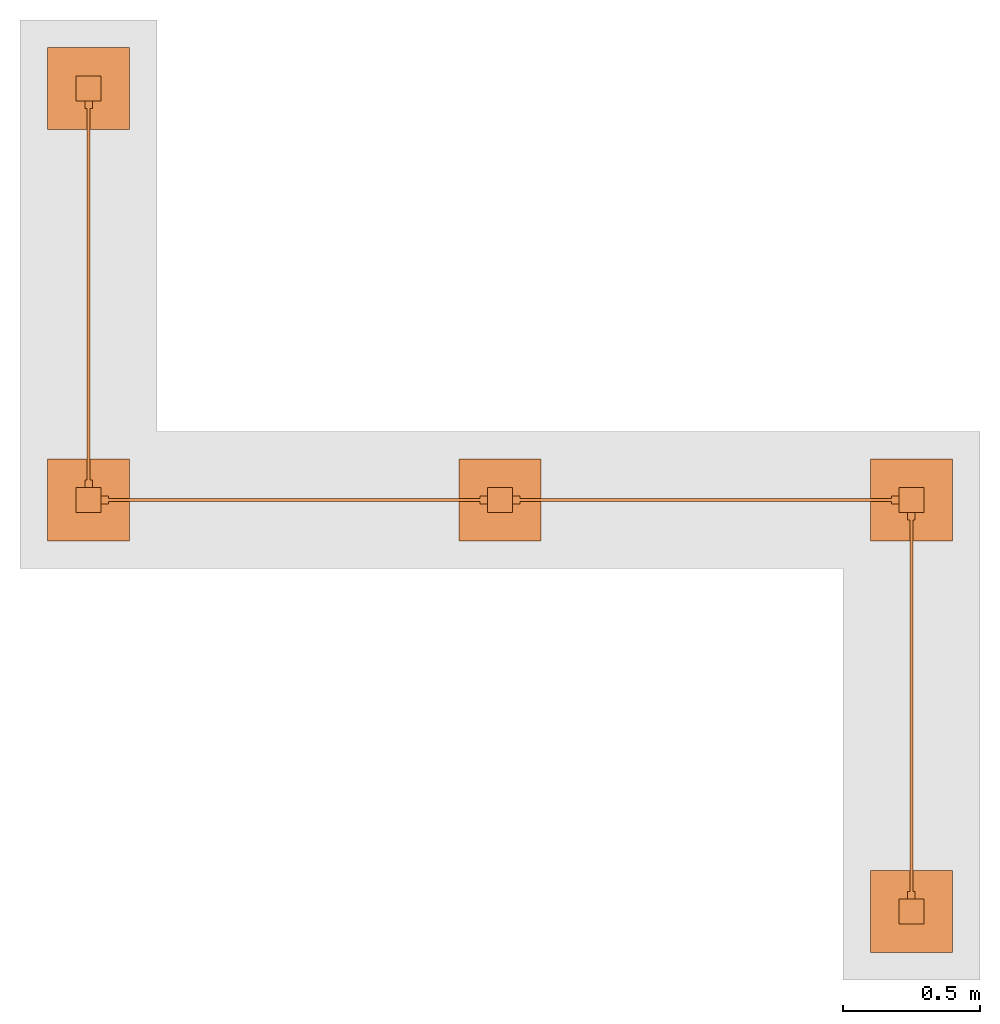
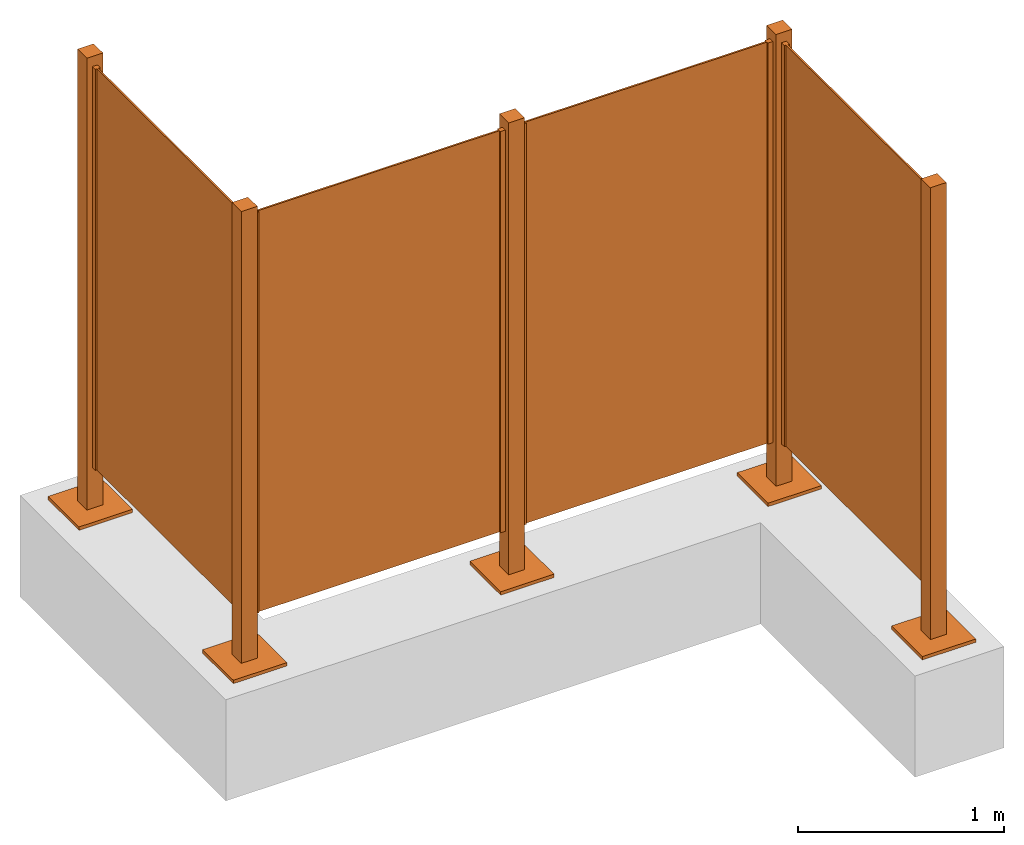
# One storey, part 2 of 2: 1 proxy.
"""IFC4 building model written with IfcOpenShell, lengths in metres."""

import ifcopenshell
import ifcopenshell.guid

model = None  # the IFC model being written
_history = None  # IfcOwnerHistory: only IFC2X3 demands one
_inside = {}  # id of a spatial element -> (the spatial element, [elements in it])
_under = {}  # id of a project, library or spatial element -> (it, [spatial elements below it])
_declared = {}  # id of a project -> (the project, [libraries it declares])
_typed = {}  # id of a type object -> (the type object, [elements of that type])
_made_of = {}  # id of a material, layer set ... -> (it, [elements and type objects made of it])


def new_model(schema):
    """Start an empty IFC model of exactly this schema.

    Asked for "IFC4X3", IfcOpenShell would pick the latest addendum, in which some entities
    have other attributes; the version numbers below select the first issue.
    IFC2X3 requires an IfcOwnerHistory on every rooted entity: one is made here for all.
    """
    global model, _history
    if schema == "IFC4X3":
        model = ifcopenshell.file(schema_version=(4, 3, 0, 0))
    else:
        model = ifcopenshell.file(schema=schema)
    _inside.clear()
    _under.clear()
    _declared.clear()
    _typed.clear()
    _made_of.clear()
    _history = None
    if model.schema == "IFC2X3":
        org = make("IfcOrganization", Name="unknown")
        user = make(
            "IfcPersonAndOrganization",
            ThePerson=make("IfcPerson", FamilyName="unknown"),
            TheOrganization=org,
        )
        app = make(
            "IfcApplication",
            ApplicationDeveloper=org,
            Version="unknown",
            ApplicationFullName="unknown",
            ApplicationIdentifier="unknown",
        )
        _history = make(
            "IfcOwnerHistory",
            OwningUser=user,
            OwningApplication=app,
            ChangeAction="ADDED",
            CreationDate=0,
        )
    return model


def make(cls, **values):
    """One entity of the class cls with the attributes given. An attribute that is None is left unset."""
    return model.create_entity(
        cls, **{name: value for name, value in values.items() if value is not None}
    )


def entity(cls, *values):
    """Any entity or typed value of the class cls, its attributes in the order of the schema. None: left unset."""
    e = model.create_entity(cls)
    for i, value in enumerate(values):
        if value is not None:
            e[i] = value
    return e


def rooted(cls, **values):
    """An entity with a GlobalId (a new one), such as an element, a storey or a relation."""
    return make(cls, GlobalId=ifcopenshell.guid.new(), OwnerHistory=_history, **values)


def si_unit(unit_type, name, prefix=None):
    """IfcSIUnit, for example si_unit("LENGTHUNIT", "METRE", prefix="MILLI")."""
    return make("IfcSIUnit", UnitType=unit_type, Prefix=prefix, Name=name)


def converted_unit(unit_type, name, factor, base, dimensions=None, offset=None):
    """IfcConversionBasedUnit, such as the inch: factor (a typed value) times the base unit."""
    return make(
        "IfcConversionBasedUnit"
        if offset is None
        else "IfcConversionBasedUnitWithOffset",
        ConversionOffset=offset,
        Dimensions=None
        if dimensions is None
        else entity("IfcDimensionalExponents", *dimensions),
        UnitType=unit_type,
        Name=name,
        ConversionFactor=make(
            "IfcMeasureWithUnit", ValueComponent=factor, UnitComponent=base
        ),
    )


def assignment(units):
    """IfcUnitAssignment: the units of a project."""
    return None if units is None else make("IfcUnitAssignment", Units=units)


def point(xyz):
    """IfcCartesianPoint."""
    return None if xyz is None else make("IfcCartesianPoint", Coordinates=xyz)


def direction(xyz):
    """IfcDirection."""
    return None if xyz is None else make("IfcDirection", DirectionRatios=xyz)


def frame(location, z_axis=None, x_axis=None):
    """IfcAxis2Placement3D, a coordinate frame: its origin and axes. An axis left out is left unset."""
    return make(
        "IfcAxis2Placement3D",
        Location=point(location),
        Axis=direction(z_axis),
        RefDirection=direction(x_axis),
    )


def frame_2d(location, x_axis=None):
    """IfcAxis2Placement2D, a coordinate frame in the plane: its origin and x axis."""
    return make(
        "IfcAxis2Placement2D", Location=point(location), RefDirection=direction(x_axis)
    )


def origin():
    """The frame at (0, 0, 0) with its axes left unset."""
    return frame((0.0, 0.0, 0.0))


def origin_2d_with_axis():
    """The frame at (0, 0) in the plane with the x axis (1, 0) written out."""
    return frame_2d((0.0, 0.0), x_axis=(1.0, 0.0))


def place(relative_to, where):
    """IfcLocalPlacement: puts the frame where relative to a parent placement (None: the world)."""
    return make(
        "IfcLocalPlacement", PlacementRelTo=relative_to, RelativePlacement=where
    )


def context(
    kind, dimensions, precision=None, world=None, true_north=None, identifier=None
):
    """IfcGeometricRepresentationContext, for example the 3D "Model" context."""
    return make(
        "IfcGeometricRepresentationContext",
        ContextIdentifier=identifier,
        ContextType=kind,
        CoordinateSpaceDimension=dimensions,
        Precision=precision,
        WorldCoordinateSystem=world,
        TrueNorth=true_north,
    )


def subcontext(parent, identifier, kind, view, scale=None):
    """IfcGeometricRepresentationSubContext, for example "Body" below "Model"."""
    return make(
        "IfcGeometricRepresentationSubContext",
        ContextIdentifier=identifier,
        ContextType=kind,
        ParentContext=parent,
        TargetScale=scale,
        TargetView=view,
    )


def project(units=None, contexts=None):
    """IfcProject with its units and contexts."""
    return rooted(
        "IfcProject",
        Name="project",
        RepresentationContexts=contexts,
        UnitsInContext=assignment(units),
    )


def spatial(cls, under=None, at=None, **own):
    """A site, building, storey or space (cls), placed at a placement, below another one or the project."""
    s = rooted(cls, ObjectPlacement=at, **own)
    if under is not None:
        _under.setdefault(under.id(), (under, []))[1].append(s)
    return s


def profile(cls, at=None, kind="AREA", **sizes):
    """A parametric profile (cls). Its sizes go by their IFC names, for example OverallWidth=200.0."""
    return make(cls, ProfileType=kind, Position=at, **sizes)


def rectangle(**sizes):
    """IfcRectangleProfileDef."""
    return profile("IfcRectangleProfileDef", **sizes)


def extrude(swept, where, along, depth):
    """IfcExtrudedAreaSolid: the profile swept, set in the frame where, extruded along a direction by depth."""
    return make(
        "IfcExtrudedAreaSolid",
        SweptArea=swept,
        Position=where,
        ExtrudedDirection=direction(along),
        Depth=depth,
    )


def shape(context_of_items, identifier, shape_type, items):
    """IfcShapeRepresentation: the items that make up one representation, for example the "Body"."""
    return make(
        "IfcShapeRepresentation",
        ContextOfItems=context_of_items,
        RepresentationIdentifier=identifier,
        RepresentationType=shape_type,
        Items=items,
    )


def source(mapping_origin, context_of_items, identifier, shape_type, items):
    """IfcRepresentationMap: a shape defined once, which mapped items show again and again."""
    return make(
        "IfcRepresentationMap",
        MappingOrigin=mapping_origin,
        MappedRepresentation=shape(context_of_items, identifier, shape_type, items),
    )


def transform(
    local_origin,
    x_axis=None,
    y_axis=None,
    z_axis=None,
    scale=None,
    scale2=None,
    scale3=None,
    uniform=True,
):
    """IfcCartesianTransformationOperator3D, or its non-uniform kind. x_axis, y_axis, z_axis: its Axis1, 2, 3."""
    if uniform:
        return make(
            "IfcCartesianTransformationOperator3D",
            Axis1=direction(x_axis),
            Axis2=direction(y_axis),
            LocalOrigin=point(local_origin),
            Scale=scale,
            Axis3=direction(z_axis),
        )
    return make(
        "IfcCartesianTransformationOperator3DnonUniform",
        Axis1=direction(x_axis),
        Axis2=direction(y_axis),
        LocalOrigin=point(local_origin),
        Scale=scale,
        Axis3=direction(z_axis),
        Scale2=scale2,
        Scale3=scale3,
    )


def mapped(mapping_source, mapping_target):
    """IfcMappedItem: shows the shape of a source again, moved by a transform."""
    return make(
        "IfcMappedItem", MappingSource=mapping_source, MappingTarget=mapping_target
    )


def material(Name=None, Category=None):
    """IfcMaterial."""
    return make("IfcMaterial", Name=Name, Category=Category)


def constituent(of_material, Name=None, Category=None, fraction=None):
    """IfcMaterialConstituent: one of the materials an element consists of."""
    return make(
        "IfcMaterialConstituent",
        Name=Name,
        Material=of_material,
        Fraction=fraction,
        Category=Category,
    )


def constituent_set(constituents=None, Name=None):
    """IfcMaterialConstituentSet."""
    return make(
        "IfcMaterialConstituentSet", Name=Name, MaterialConstituents=constituents
    )


def made_of(thing, what):
    """Note that an element or type object is made of a material, layer set ...; save() writes the relation."""
    if what is not None:
        _made_of.setdefault(what.id(), (what, []))[1].append(thing)
    return thing


def type_object(cls, material=None, **own):
    """A type object (cls), such as IfcWallType, which elements share."""
    return made_of(rooted(cls, **own), material)


def type_shapes(of_type, sources):
    """Give a type object the sources (RepresentationMaps) that its elements show as mapped items."""
    of_type.RepresentationMaps = sources


def element(
    cls,
    number,
    at=None,
    inside=None,
    cuts=None,
    type_object=None,
    material=None,
    context=None,
    identifier="Body",
    shape_type=None,
    held_by="IfcProductDefinitionShape",
    body=None,
    shapes=None,
    **own,
):
    """One element of the class cls, such as IfcWall. Its Tag is "e" and its number.

    at: its placement. inside: the storey or other place that contains it. cuts: it is an
    opening in that element (IfcRelVoidsElement). A single representation is given by context,
    identifier, shape_type and body (its items); several are given by shapes. held_by: the class
    of the entity that holds the representations. save() writes the other relations.
    """
    e = rooted(cls, Tag="e%d" % number, ObjectPlacement=at, **own)
    if body is not None:
        shapes = [shape(context, identifier, shape_type, body)]
    if shapes is not None:
        e.Representation = make(held_by, Representations=shapes)
    if inside is not None:
        _inside.setdefault(inside.id(), (inside, []))[1].append(e)
    if cuts is not None:
        rooted(
            "IfcRelVoidsElement", RelatingBuildingElement=cuts, RelatedOpeningElement=e
        )
    if type_object is not None:
        _typed.setdefault(type_object.id(), (type_object, []))[1].append(e)
    return made_of(e, material)


def aggregate(whole, parts):
    """IfcRelAggregates: a whole, such as a stair, and the parts it consists of."""
    return rooted("IfcRelAggregates", RelatingObject=whole, RelatedObjects=parts)


def save(model, path):
    """Write the relations noted so far, then the file.

    IfcRelAggregates (storeys below a building ...), IfcRelContainedInSpatialStructure (elements
    in a storey), IfcRelDefinesByType, IfcRelAssociatesMaterial and IfcRelDeclares: one each for
    every whole, place, type object, material and project.
    """
    for whole, parts in _under.values():
        aggregate(whole, parts)
    for where, things in _inside.values():
        rooted(
            "IfcRelContainedInSpatialStructure",
            RelatedElements=things,
            RelatingStructure=where,
        )
    for kind, things in _typed.values():
        rooted("IfcRelDefinesByType", RelatedObjects=things, RelatingType=kind)
    for what, things in _made_of.values():
        rooted("IfcRelAssociatesMaterial", RelatedObjects=things, RelatingMaterial=what)
    for by, libraries in _declared.values():
        rooted("IfcRelDeclares", RelatingContext=by, RelatedDefinitions=libraries)
    model.write(path)


model = new_model("IFC4")

# Units and contexts
model_context = context("Model", 3, precision=1e-05, world=origin(), true_north=direction((6.123031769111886e-17, 1.0)))
body_context = subcontext(model_context, "Body", "Model", "MODEL_VIEW")
ifc_project = project(units=[si_unit("LENGTHUNIT", "METRE"), converted_unit("PLANEANGLEUNIT", "DEGREE", entity("IfcPlaneAngleMeasure", 0.017453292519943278), si_unit("PLANEANGLEUNIT", "RADIAN"), dimensions=[0, 0, 0, 0, 0, 0, 0]), si_unit("AREAUNIT", "SQUARE_METRE")], contexts=[model_context])

# Site, building, storey
site_placement = place(None, origin())
site = spatial("IfcSite", under=ifc_project, at=site_placement, Name="Default", CompositionType="ELEMENT")
building_placement = place(site_placement, origin())
building = spatial("IfcBuilding", under=site, at=building_placement, CompositionType="ELEMENT")
storey_placement = place(building_placement, origin())
storey = spatial("IfcBuildingStorey", under=building, at=storey_placement, Name="DB_Bezugshoehe_max_Bahnsteigkante", CompositionType="ELEMENT", Elevation=0.0)

# Proxy
ifc_material_1 = material(Name="DB_Aluminium_RAL7035", Category="DB_Aluminium")
ifc_constituent_1 = constituent(ifc_material_1, Name="DB_Aluminium_RAL7035", Category="DB_Aluminium")
ifc_material_2 = material(Name="DB_ESG/VSG_klar", Category="DB_Glas")
ifc_constituent_2 = constituent(ifc_material_2, Name="DB_ESG/VSG_klar", Category="DB_Glas")
ifc_material_3 = material(Name="DB_Aluminium_RAL9007", Category="DB_Aluminium")
ifc_constituent_3 = constituent(ifc_material_3, Name="DB_Aluminium_RAL9007", Category="DB_Aluminium")
ifc_material_4 = material(Name="DB_Stahl_verzinkt_RAL9006", Category="DB_Stahl")
ifc_constituent_4 = constituent(ifc_material_4, Name="DB_Stahl_verzinkt_RAL9006", Category="DB_Stahl")
ifc_constituent_set_1 = constituent_set(constituents=[ifc_constituent_1, ifc_constituent_2, ifc_constituent_3, ifc_constituent_4])
ifc_constituent_5 = constituent(ifc_material_1, Name="DB_FAM_Volumen", Category="DB_Aluminium")
ifc_constituent_6 = constituent(ifc_material_2, Name="DB_FAM_Volumen", Category="DB_Glas")
ifc_constituent_7 = constituent(ifc_material_3, Name="DB_FAM_Volumen", Category="DB_Aluminium")
ifc_constituent_8 = constituent(ifc_material_4, Name="DB_FAM_Volumen", Category="DB_Stahl")
ifc_constituent_set_2 = constituent_set(constituents=[ifc_constituent_5, ifc_constituent_6, ifc_constituent_7, ifc_constituent_8])
building_element_proxy_type = type_object("IfcBuildingElementProxyType", Name="DB_Windschutz 2-feldrig S-Form:DB_Windschutz 2-feldrig S-Form", PredefinedType="NOTDEFINED", material=ifc_constituent_set_2)
shared_shape = source(origin(), body_context, "Body", "SweptSolid", [
    extrude(rectangle(XDim=0.02760000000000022, YDim=0.027499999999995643, at=frame_2d((1.3530843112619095e-16, 0.0), x_axis=(1.0, 0.0))), frame((1.4999999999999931, 0.8412500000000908, 0.0600000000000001), z_axis=(0.0, 0.0, 1.0), x_axis=(-1.0, 0.0, 0.0)), (0.0, 0.0, 1.0), 2.3800000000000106),
    extrude(rectangle(XDim=0.02759999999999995, YDim=0.027499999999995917, at=frame_2d((0.0, -3.382710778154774e-17), x_axis=(1.0, 0.0))), frame((1.5000000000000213, -0.5412499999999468, 0.0600000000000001), z_axis=(0.0, 0.0, 1.0), x_axis=(-1.0, 0.0, 0.0)), (0.0, 0.0, 1.0), 2.3800000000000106),
    extrude(rectangle(XDim=1.3550000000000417, YDim=0.010000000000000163, at=frame_2d((0.0, -1.3530843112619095e-16), x_axis=(1.0, 0.0))), frame((1.5000000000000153, 0.15000000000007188, 0.05999999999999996), z_axis=(0.0, 0.0, 1.0), x_axis=(0.0, 1.0, 0.0)), (0.0, 0.0, 1.0), 2.3800000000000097),
    extrude(rectangle(XDim=0.027499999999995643, YDim=0.02760000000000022, at=frame_2d((0.0, 2.706168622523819e-16), x_axis=(1.0, 0.0))), frame((4.500000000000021, -2.0412500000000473, 0.05999999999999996), z_axis=(0.0, 0.0, 1.0), x_axis=(0.0, 1.0, 0.0)), (0.0, 0.0, 1.0), 2.3800000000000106),
    extrude(rectangle(XDim=0.027499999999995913, YDim=0.02759999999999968, at=frame_2d((0.0, 2.706168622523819e-16), x_axis=(1.0, 0.0))), frame((4.500000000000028, -0.6587500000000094, 0.05999999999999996), z_axis=(0.0, 0.0, 1.0), x_axis=(0.0, 1.0, 0.0)), (0.0, 0.0, 1.0), 2.3800000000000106),
    extrude(rectangle(XDim=0.009999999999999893, YDim=1.3550000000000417, at=origin_2d_with_axis()), frame((4.500000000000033, -1.3500000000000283, 0.059999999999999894), z_axis=(0.0, 0.0, 1.0), x_axis=(-1.0, 0.0, 0.0)), (0.0, 0.0, 1.0), 2.38000000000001),
    extrude(rectangle(XDim=0.027499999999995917, YDim=0.02760000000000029, at=frame_2d((0.0, 3.382710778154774e-17), x_axis=(1.0, 0.0))), frame((4.441250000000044, -0.5999999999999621, 0.05999999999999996), z_axis=(0.0, 0.0, 1.0), x_axis=(-1.0, 0.0, 0.0)), (0.0, 0.0, 1.0), 2.3800000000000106),
    extrude(rectangle(XDim=0.027499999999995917, YDim=0.02760000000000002, at=frame_2d((0.0, 3.382710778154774e-17), x_axis=(1.0, 0.0))), frame((3.0587500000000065, -0.5999999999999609, 0.05999999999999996), z_axis=(0.0, 0.0, 1.0), x_axis=(-1.0, 0.0, 0.0)), (0.0, 0.0, 1.0), 2.3800000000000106),
    extrude(rectangle(XDim=0.009999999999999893, YDim=1.3550000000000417, at=frame_2d((-6.765421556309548e-17, 0.0), x_axis=(1.0, 0.0))), frame((3.7500000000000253, -0.5999999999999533, 0.059999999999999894), z_axis=(0.0, 0.0, 1.0), x_axis=(0.0, -1.0, 0.0)), (0.0, 0.0, 1.0), 2.38000000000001),
    extrude(rectangle(XDim=0.027499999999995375, YDim=0.02760000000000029, at=frame_2d((0.0, 3.382710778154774e-17), x_axis=(1.0, 0.0))), frame((2.941250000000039, -0.5999999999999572, 0.05999999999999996), z_axis=(0.0, 0.0, 1.0), x_axis=(-1.0, 0.0, 0.0)), (0.0, 0.0, 1.0), 2.3800000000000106),
    extrude(rectangle(XDim=0.027499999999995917, YDim=0.02760000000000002, at=frame_2d((-1.3530843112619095e-16, 3.382710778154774e-17), x_axis=(1.0, 0.0))), frame((1.5587500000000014, -0.599999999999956, 0.05999999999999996), z_axis=(0.0, 0.0, 1.0), x_axis=(-1.0, 0.0, 0.0)), (0.0, 0.0, 1.0), 2.3800000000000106),
    extrude(rectangle(XDim=0.009999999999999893, YDim=1.3550000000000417, at=frame_2d((-6.765421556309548e-17, 0.0), x_axis=(1.0, 0.0))), frame((2.2500000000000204, -0.5999999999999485, 0.059999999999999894), z_axis=(0.0, 0.0, 1.0), x_axis=(0.0, -1.0, 0.0)), (0.0, 0.0, 1.0), 2.38000000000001),
    extrude(rectangle(XDim=0.08999999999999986, YDim=0.08999999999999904, at=frame_2d((-1.3530843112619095e-16, 0.0), x_axis=(1.0, 0.0))), frame((4.500000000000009, -2.100000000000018, 0.0), z_axis=(0.0, 0.0, 1.0), x_axis=(0.0, 1.0, 0.0)), (0.0, 0.0, 1.0), 2.5000000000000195),
    extrude(rectangle(XDim=0.09000000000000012, YDim=0.09000000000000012, at=origin_2d_with_axis()), frame((4.500000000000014, -0.6000000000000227, 0.0), z_axis=(0.0, 0.0, 1.0), x_axis=(0.0, 1.0, 0.0)), (0.0, 0.0, 1.0), 2.5000000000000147),
    extrude(rectangle(XDim=0.08999999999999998, YDim=0.09000000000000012, at=origin_2d_with_axis()), frame((3.0, -0.6000000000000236, 0.0), z_axis=(0.0, 0.0, 1.0), x_axis=(0.0, 1.0, 0.0)), (0.0, 0.0, 1.0), 2.5000000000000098),
    extrude(rectangle(XDim=0.09000000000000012, YDim=0.09000000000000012, at=origin_2d_with_axis()), frame((1.500000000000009, -0.5999999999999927, 0.0), z_axis=(0.0, 0.0, 1.0), x_axis=(0.0, 1.0, 0.0)), (0.0, 0.0, 1.0), 2.500000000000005),
    extrude(rectangle(XDim=0.08999999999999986, YDim=0.08999999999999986, at=frame_2d((1.3530843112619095e-16, 1.3530843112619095e-16), x_axis=(1.0, 0.0))), frame((1.500000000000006, 0.9000000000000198, 0.0), z_axis=(0.0, 0.0, 1.0), x_axis=(-1.0, 0.0, 0.0)), (0.0, 0.0, 1.0), 2.5),
    extrude(rectangle(XDim=0.2999999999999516, YDim=0.2999999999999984, at=frame_2d((-1.3877787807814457e-16, 0.0), x_axis=(1.0, 0.0))), frame((1.5000000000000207, 0.9000000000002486, -0.19999999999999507)), (0.0, 0.0, 1.0), 0.019999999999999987),
    extrude(rectangle(XDim=0.2999999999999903, YDim=0.3000000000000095, at=frame_2d((0.0, -6.938893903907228e-17), x_axis=(1.0, 0.0))), frame((1.500000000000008, -0.6000000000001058, -0.19999999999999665), z_axis=(0.0, 0.0, 1.0), x_axis=(-1.0, 0.0, 0.0)), (0.0, 0.0, 1.0), 0.019999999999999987),
    extrude(rectangle(XDim=0.29999999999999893, YDim=0.3000000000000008, at=origin_2d_with_axis()), frame((4.500000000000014, -0.6000000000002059, -0.19999999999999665), z_axis=(0.0, 0.0, 1.0), x_axis=(-1.0, 0.0, 0.0)), (0.0, 0.0, 1.0), 0.019999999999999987),
    extrude(rectangle(XDim=0.3000000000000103, YDim=0.30000000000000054, at=frame_2d((-2.7755575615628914e-16, 0.0), x_axis=(1.0, 0.0))), frame((3.0, -0.6000000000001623, -0.19999999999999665), z_axis=(0.0, 0.0, 1.0), x_axis=(-1.0, 0.0, 0.0)), (0.0, 0.0, 1.0), 0.019999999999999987),
    extrude(rectangle(XDim=0.30000000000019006, YDim=0.2999999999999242, at=origin_2d_with_axis()), frame((4.499999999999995, -2.100000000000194, -0.19999999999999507), z_axis=(0.0, 0.0, 1.0), x_axis=(0.0, -1.0, 0.0)), (0.0, 0.0, 1.0), 0.019999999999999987),
    extrude(rectangle(XDim=0.08999999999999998, YDim=0.0899999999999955, at=frame_2d((0.0, 1.3530843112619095e-16), x_axis=(1.0, 0.0))), frame((1.500000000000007, -0.600000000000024, -0.18000000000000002), z_axis=(0.0, 0.0, 1.0), x_axis=(0.0, 1.0, 0.0)), (0.0, 0.0, 1.0), 0.1799999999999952),
    extrude(rectangle(XDim=0.08999999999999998, YDim=0.08999999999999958, at=frame_2d((0.0, -2.706168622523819e-16), x_axis=(1.0, 0.0))), frame((4.500000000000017, -0.6000000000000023, -0.18000000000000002), z_axis=(0.0, 0.0, 1.0), x_axis=(0.0, 1.0, 0.0)), (0.0, 0.0, 1.0), 0.1799999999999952),
    extrude(rectangle(XDim=0.09000000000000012, YDim=0.09000000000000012, at=origin_2d_with_axis()), frame((3.0, -0.6000000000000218, -0.18000000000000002), z_axis=(0.0, 0.0, 1.0), x_axis=(0.0, 1.0, 0.0)), (0.0, 0.0, 1.0), 0.1800000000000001),
    extrude(rectangle(XDim=0.09000000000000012, YDim=0.09000000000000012, at=frame_2d((0.0, -5.412337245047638e-16), x_axis=(1.0, 0.0))), frame((4.50000000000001, -2.1000000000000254, -0.18000000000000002), z_axis=(0.0, 0.0, 1.0), x_axis=(0.0, 1.0, 0.0)), (0.0, 0.0, 1.0), 0.1799999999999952),
    extrude(rectangle(XDim=0.08999999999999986, YDim=0.08999999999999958, at=frame_2d((1.3530843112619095e-16, 0.0), x_axis=(1.0, 0.0))), frame((1.500000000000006, 0.9000000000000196, -0.18000000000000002), z_axis=(0.0, 0.0, 1.0), x_axis=(-1.0, 0.0, 0.0)), (0.0, 0.0, 1.0), 0.1799999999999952),
])
type_shapes(building_element_proxy_type, [shared_shape])
proxy_placement = place(storey_placement, frame((-1.500000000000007, 0.5999999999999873, 0.800000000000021)))
element("IfcBuildingElementProxy", 1, at=proxy_placement, inside=storey, type_object=building_element_proxy_type, material=ifc_constituent_set_1, Name="DB_Windschutz 2-feldrig S-Form:DB_Windschutz 2-feldrig S-Form", ObjectType="DB_Windschutz 2-feldrig S-Form:DB_Windschutz 2-feldrig S-Form", PredefinedType="NOTDEFINED", context=body_context, shape_type="MappedRepresentation", body=[
    mapped(shared_shape, transform((0.0, 0.0, 0.0), scale=1.0)),
])

save(model, "model.ifc")
